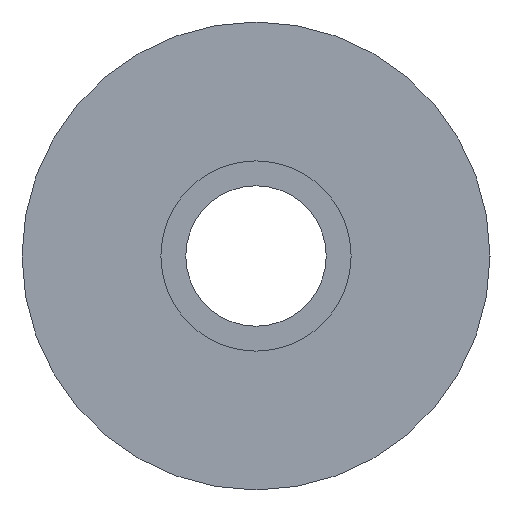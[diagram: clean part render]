
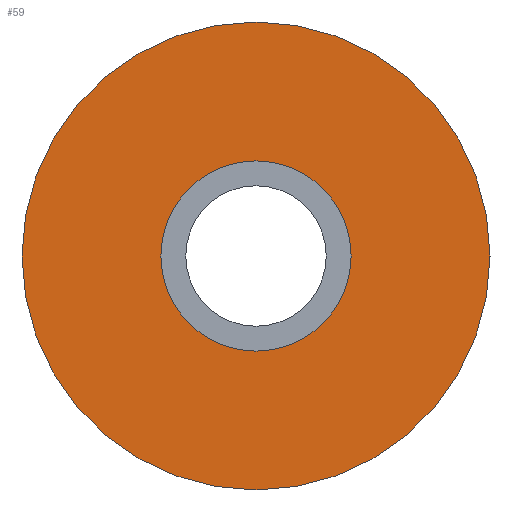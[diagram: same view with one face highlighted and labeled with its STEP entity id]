
A CAD part, left-side view. The second image highlights one B-rep face of the part: STEP entity #59.
In plain terms, the highlighted planar face has unit normal (-1, 0, 0).
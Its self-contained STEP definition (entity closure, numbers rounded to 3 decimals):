
#59 = ADVANCED_FACE( '', ( #114, #115 ), #116, .F. );
#114 = FACE_OUTER_BOUND( '', #176, .T. );
#115 = FACE_BOUND( '', #177, .T. );
#116 = PLANE( '', #178 );
#176 = EDGE_LOOP( '', ( #226 ) );
#177 = EDGE_LOOP( '', ( #227 ) );
#178 = AXIS2_PLACEMENT_3D( '', #228, #229, #230 );
#226 = ORIENTED_EDGE( '', *, *, #299, .T. );
#227 = ORIENTED_EDGE( '', *, *, #300, .F. );
#228 = CARTESIAN_POINT( '', ( -30., 0., 6.1 ) );
#229 = DIRECTION( '', ( 1., 0., 0. ) );
#230 = DIRECTION( '', ( 0., 1., 0. ) );
#299 = EDGE_CURVE( '', #323, #323, #324, .T. );
#300 = EDGE_CURVE( '', #325, #325, #326, .T. );
#323 = VERTEX_POINT( '', #359 );
#324 = CIRCLE( '', #360, 15. );
#325 = VERTEX_POINT( '', #361 );
#326 = CIRCLE( '', #362, 6.1 );
#359 = CARTESIAN_POINT( '', ( -30., 0., 15. ) );
#360 = AXIS2_PLACEMENT_3D( '', #394, #395, #396 );
#361 = CARTESIAN_POINT( '', ( -30., 0., 6.1 ) );
#362 = AXIS2_PLACEMENT_3D( '', #397, #398, #399 );
#394 = CARTESIAN_POINT( '', ( -30., 0., 0. ) );
#395 = DIRECTION( '', ( -1., 0., 0. ) );
#396 = DIRECTION( '', ( 0., 0., 1. ) );
#397 = CARTESIAN_POINT( '', ( -30., 0., 0. ) );
#398 = DIRECTION( '', ( -1., 0., 0. ) );
#399 = DIRECTION( '', ( 0., 0., 1. ) );
